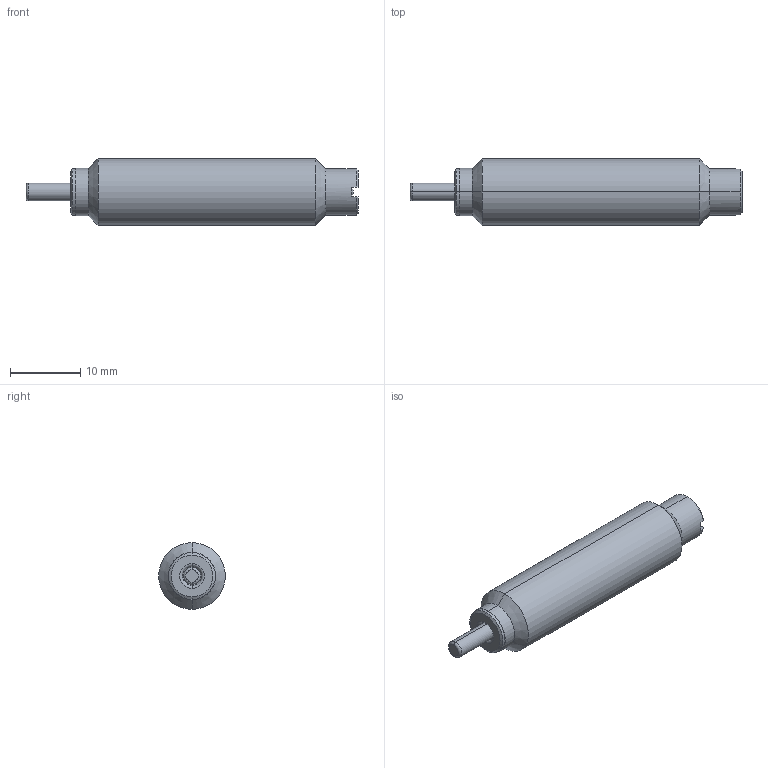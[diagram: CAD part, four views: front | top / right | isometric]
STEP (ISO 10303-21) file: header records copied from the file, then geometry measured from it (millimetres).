
FILE_DESCRIPTION (( 'STEP AP214' ), '1' );
FILE_NAME ('PMX 8.STEP', '2010-08-04T18:01:14', ( ' ' ), ( '' ), 'SwSTEP 2.0', 'SolidWorks 2006233', '' );
FILE_SCHEMA (( 'AUTOMOTIVE_DESIGN' ));
Length unit declared in the file: inch
Products named in the file (1): PMX 8
Bounding box: 47.29 x 9.5 x 9.5 mm (x, y, z)
Surface area: 1486.2 mm2 (no closed solid volume)
Topology: 0 solids, 5 shells, 50 faces, 131 edges, 85 vertices
Faces by surface type: cylinder 18, cone 14, plane 12, torus 4, sphere 2
Entity records: 2262 total; most frequent: CARTESIAN_POINT 383, DIRECTION 272, ORIENTED_EDGE 234, EDGE_CURVE 126, AXIS2_PLACEMENT_3D 111, VERTEX_POINT 82, CIRCLE 60, EDGE_LOOP 53
